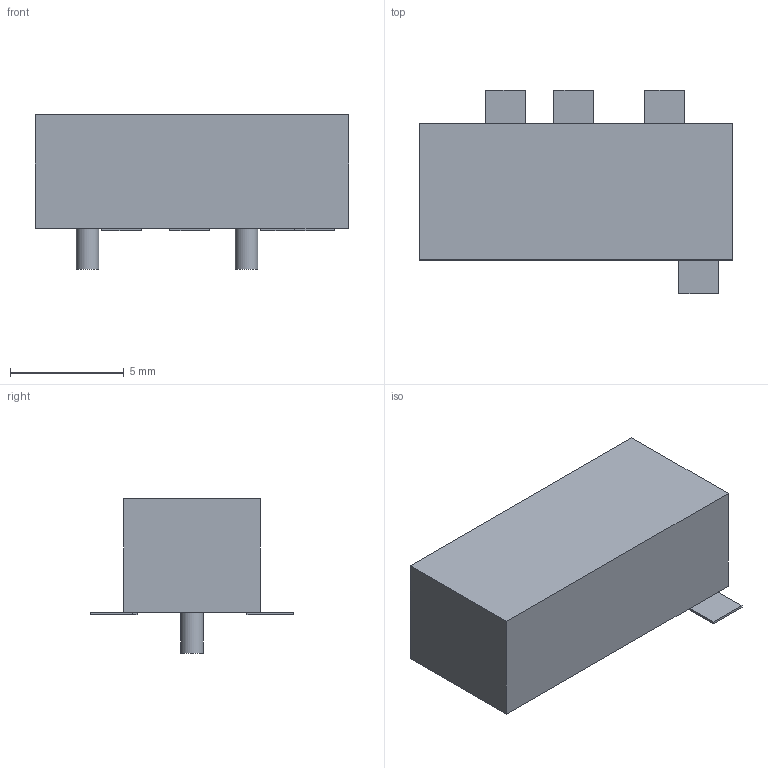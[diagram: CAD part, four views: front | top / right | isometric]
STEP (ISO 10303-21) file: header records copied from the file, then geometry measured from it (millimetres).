
FILE_DESCRIPTION(('FreeCAD Model'),'2;1');
FILE_NAME('/var/www/3D/0T/723995.1.2.stp','2020-04-09T07:45:14',( 'Author'),(''),'Open CASCADE STEP processor 6.9','FreeCAD','Unknown' );
FILE_SCHEMA(('AUTOMOTIVE_DESIGN { 1 0 10303 214 1 1 1 1 }'));
Length unit declared in the file: millimetre
Products named in the file (4): ASSEMBLY; Body; Pins; Lugs
Assembly tree (4 placements, depth 2):
  ASSEMBLY
    Body
    Pins
    Lugs  x2
Bounding box: 13.8 x 8.96 x 6.8 mm (x, y, z)
Volume: 421 mm3; surface area: 423.1 mm2
Topology: 9 solids, 9 shells, 42 faces, 72 edges, 48 vertices
Faces by surface type: plane 38, cylinder 4
Full cylindrical faces by diameter (mm): 1 x4
Entity records: 1860 total; most frequent: DIRECTION 284, CARTESIAN_POINT 283, LINE 190, VECTOR 190, ORIENTED_EDGE 132, PCURVE 132, DEFINITIONAL_REPRESENTATION 132, EDGE_CURVE 66
